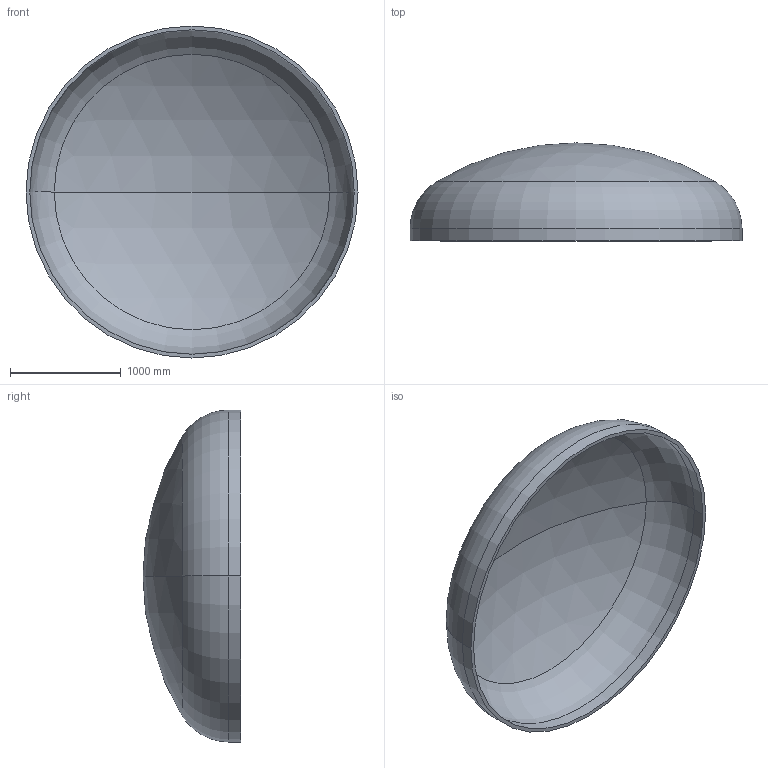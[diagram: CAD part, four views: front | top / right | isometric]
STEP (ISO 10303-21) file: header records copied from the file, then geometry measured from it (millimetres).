
FILE_DESCRIPTION (( 'STEP AP203' ), '1' );
FILE_NAME ('DIN 28013 Korbbogenform_-_Boden DIN 28013 - 3000 x 110 - I - s=34.step', '2016-07-01T17:42:27', ( '' ), ( '' ), 'SwSTEP 2.0', 'SolidWorks 2013', '' );
FILE_SCHEMA (( 'CONFIG_CONTROL_DESIGN' ));
Length unit declared in the file: millimetre
Products named in the file (1): DIN 28013 Korbbogenform_-_Boden DIN 28013 - 3000 x 110 - I - s=34
Bounding box: 3000 x 885.22 x 3000 mm (x, y, z)
Volume: 362475280 mm3; surface area: 21641299.5 mm2
Topology: 1 solids, 1 shells, 13 faces, 24 edges, 14 vertices
Faces by surface type: torus 4, cylinder 4, sphere 4, plane 1
Entity records: 407 total; most frequent: DIRECTION 72, CARTESIAN_POINT 52, ORIENTED_EDGE 48, AXIS2_PLACEMENT_3D 34, EDGE_CURVE 24, CIRCLE 20, EDGE_LOOP 14, VERTEX_POINT 14
